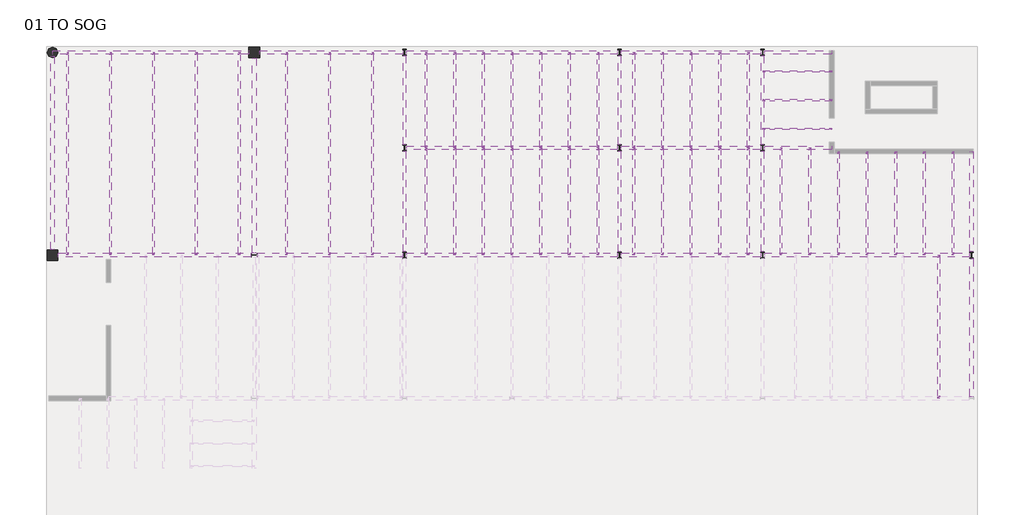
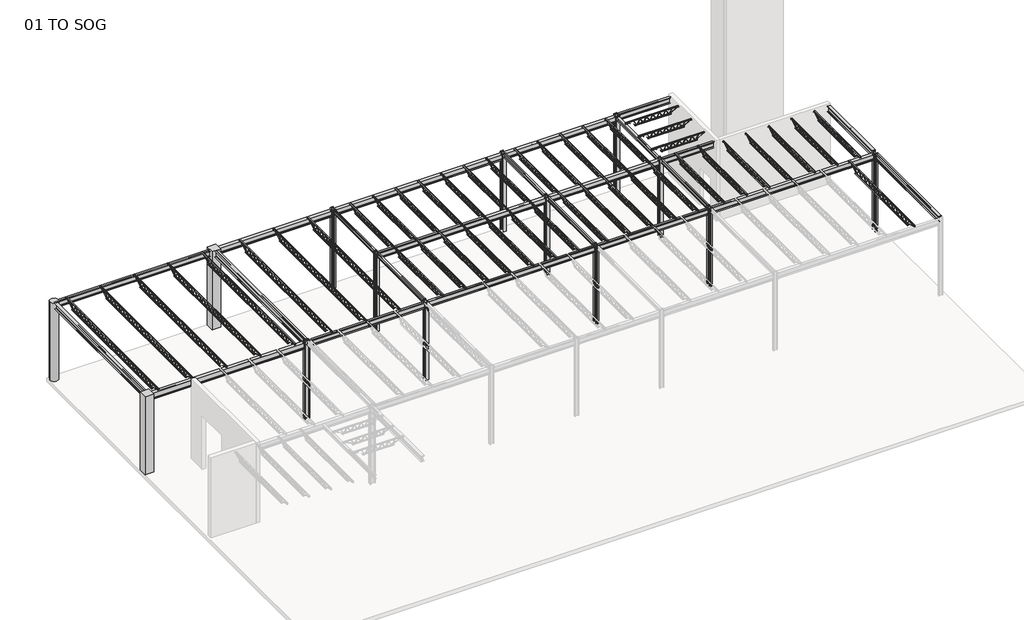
# One storey, part 2 of 2: 66 beams, 14 columns.
"""IFC4 building model written with IfcOpenShell, lengths in millimetres."""

from ifc_helpers import new_model, si_unit, point, frame_2d, origin, origin_with_axes, place, context, project, spatial, polyline, circle_curve, trimmed, segment, composite_curve, outline, extrude, transform, mapped, element, save
from components import k_series_bar_joist_angle_web_12k3_1ccca6b7, k_series_bar_joist_angle_web_12k3_bc085ed2, k_series_bar_joist_angle_web_12k3_13094d3f, k_series_bar_joist_angle_web_12k3_e2e2536a, k_series_bar_joist_angle_web_14k6_9ea650d1, k_series_bar_joist_angle_web_14k6_8be7365d, w_wide_flange_w12x26_9fd3e897, w_wide_flange_w12x26_d2ca2df1, w_wide_flange_w12x26_ed4af81c, w_wide_flange_w12x26_7af0cc8f, w_wide_flange_w12x26_58258d12, w_wide_flange_w12x26_cbf4b631, w_wide_flange_w12x26_6214fc0f, w_wide_flange_w12x26_6bea11c7, w_wide_flange_w12x26_59120017, w_wide_flange_w12x26_bc60cd37, w_wide_flange_w14x30_50aad096, w_wide_flange_w14x30_5dc0e07a, w_wide_flange_w8x10_abd37cec, w_wide_flange_w8x10_7498d693, w_wide_flange_column_w10x30_8af20c5e

model = new_model("IFC4")

# Units and contexts
model_context = context("Model", 3, world=origin())
ifc_project = project(units=[si_unit("LENGTHUNIT", "METRE", prefix="MILLI")], contexts=[model_context])

# Site, building, storey
site = spatial("IfcSite", under=ifc_project)
building = spatial("IfcBuilding", under=site)
storey = spatial("IfcBuildingStorey", under=building, Name="01 TO SOG", Elevation=0.0)

# Beams
placement = place(None, origin())
k_series_bar_joist_angle_web_12k3_shape = k_series_bar_joist_angle_web_12k3_1ccca6b7(model_context)
element("IfcBeam", 1, ObjectType="K-Series Bar Joist-Angle Web : 12K3", at=placement, inside=storey, context=model_context, shape_type="MappedRepresentation", body=[
    mapped(k_series_bar_joist_angle_web_12k3_shape, transform((3946.8726301, 6964.1746638, 4292.6), x_axis=(0.0, -1.0, 0.0), y_axis=(1.0, 0.0, 0.0), z_axis=(0.0, 0.0, 1.0))),
])
element("IfcBeam", 2, ObjectType="K-Series Bar Joist-Angle Web : 12K3", at=placement, inside=storey, context=model_context, shape_type="MappedRepresentation", body=[
    mapped(k_series_bar_joist_angle_web_12k3_shape, transform((2727.6726301, 6964.1746638, 4292.6), x_axis=(0.0, -1.0, 0.0), y_axis=(1.0, 0.0, 0.0), z_axis=(0.0, 0.0, 1.0))),
])
element("IfcBeam", 3, ObjectType="K-Series Bar Joist-Angle Web : 12K3", at=placement, inside=storey, context=model_context, shape_type="MappedRepresentation", body=[
    mapped(k_series_bar_joist_angle_web_12k3_shape, transform((1508.4726301, 6964.1746638, 4292.6), x_axis=(0.0, -1.0, 0.0), y_axis=(1.0, 0.0, 0.0), z_axis=(0.0, 0.0, 1.0))),
])
element("IfcBeam", 4, ObjectType="K-Series Bar Joist-Angle Web : 12K3", at=placement, inside=storey, context=model_context, shape_type="MappedRepresentation", body=[
    mapped(k_series_bar_joist_angle_web_12k3_shape, transform((289.2726301, 6964.1746638, 4292.6), x_axis=(0.0, -1.0, 0.0), y_axis=(1.0, 0.0, 0.0), z_axis=(0.0, 0.0, 1.0))),
])
element("IfcBeam", 5, ObjectType="K-Series Bar Joist-Angle Web : 12K3", at=placement, inside=storey, context=model_context, shape_type="MappedRepresentation", body=[
    mapped(k_series_bar_joist_angle_web_12k3_shape, transform((-929.9273699, 6964.1746638, 4292.6), x_axis=(0.0, -1.0, 0.0), y_axis=(1.0, 0.0, 0.0), z_axis=(0.0, 0.0, 1.0))),
])
element("IfcBeam", 6, ObjectType="K-Series Bar Joist-Angle Web : 12K3", at=placement, inside=storey, context=model_context, shape_type="MappedRepresentation", body=[
    mapped(k_series_bar_joist_angle_web_12k3_shape, transform((-2149.1273699, 6964.1746638, 4292.6), x_axis=(0.0, -1.0, 0.0), y_axis=(1.0, 0.0, 0.0), z_axis=(0.0, 0.0, 1.0))),
])
element("IfcBeam", 7, ObjectType="K-Series Bar Joist-Angle Web : 12K3", at=placement, inside=storey, context=model_context, shape_type="MappedRepresentation", body=[
    mapped(k_series_bar_joist_angle_web_12k3_shape, transform((-3368.3273699, 6964.1746638, 4292.6), x_axis=(0.0, -1.0, 0.0), y_axis=(1.0, 0.0, 0.0), z_axis=(0.0, 0.0, 1.0))),
])
element("IfcBeam", 8, ObjectType="K-Series Bar Joist-Angle Web : 12K3", at=placement, inside=storey, context=model_context, shape_type="MappedRepresentation", body=[
    mapped(k_series_bar_joist_angle_web_12k3_shape, transform((10347.6726301, 6964.1746638, 4292.6), x_axis=(0.0, -1.0, 0.0), y_axis=(1.0, 0.0, 0.0), z_axis=(0.0, 0.0, 1.0))),
])
element("IfcBeam", 9, ObjectType="K-Series Bar Joist-Angle Web : 12K3", at=placement, inside=storey, context=model_context, shape_type="MappedRepresentation", body=[
    mapped(k_series_bar_joist_angle_web_12k3_shape, transform((9128.4726301, 6964.1746638, 4292.6), x_axis=(0.0, -1.0, 0.0), y_axis=(1.0, 0.0, 0.0), z_axis=(0.0, 0.0, 1.0))),
])
element("IfcBeam", 10, ObjectType="K-Series Bar Joist-Angle Web : 12K3", at=placement, inside=storey, context=model_context, shape_type="MappedRepresentation", body=[
    mapped(k_series_bar_joist_angle_web_12k3_shape, transform((7909.2726301, 6964.1746638, 4292.6), x_axis=(0.0, -1.0, 0.0), y_axis=(1.0, 0.0, 0.0), z_axis=(0.0, 0.0, 1.0))),
])
element("IfcBeam", 11, ObjectType="K-Series Bar Joist-Angle Web : 12K3", at=placement, inside=storey, context=model_context, shape_type="MappedRepresentation", body=[
    mapped(k_series_bar_joist_angle_web_12k3_shape, transform((6690.0726301, 6964.1746638, 4292.6), x_axis=(0.0, -1.0, 0.0), y_axis=(1.0, 0.0, 0.0), z_axis=(0.0, 0.0, 1.0))),
])
element("IfcBeam", 12, ObjectType="K-Series Bar Joist-Angle Web : 12K3", at=placement, inside=storey, context=model_context, shape_type="MappedRepresentation", body=[
    mapped(k_series_bar_joist_angle_web_12k3_shape, transform((5470.8726301, 6964.1746638, 4292.6), x_axis=(0.0, -1.0, 0.0), y_axis=(1.0, 0.0, 0.0), z_axis=(0.0, 0.0, 1.0))),
])
k_series_bar_joist_angle_web_12k3_2_shape = k_series_bar_joist_angle_web_12k3_bc085ed2(model_context)
element("IfcBeam", 13, ObjectType="K-Series Bar Joist-Angle Web : 12K3", at=placement, inside=storey, context=model_context, shape_type="MappedRepresentation", body=[
    mapped(k_series_bar_joist_angle_web_12k3_2_shape, transform((3946.8726301, 2646.1746638, 4292.6), x_axis=(0.0, -1.0, 0.0), y_axis=(1.0, 0.0, 0.0), z_axis=(0.0, 0.0, 1.0))),
])
element("IfcBeam", 14, ObjectType="K-Series Bar Joist-Angle Web : 12K3", at=placement, inside=storey, context=model_context, shape_type="MappedRepresentation", body=[
    mapped(k_series_bar_joist_angle_web_12k3_2_shape, transform((2727.6726301, 2646.1746638, 4292.6), x_axis=(0.0, -1.0, 0.0), y_axis=(1.0, 0.0, 0.0), z_axis=(0.0, 0.0, 1.0))),
])
element("IfcBeam", 15, ObjectType="K-Series Bar Joist-Angle Web : 12K3", at=placement, inside=storey, context=model_context, shape_type="MappedRepresentation", body=[
    mapped(k_series_bar_joist_angle_web_12k3_2_shape, transform((1508.4726301, 2646.1746638, 4292.6), x_axis=(0.0, -1.0, 0.0), y_axis=(1.0, 0.0, 0.0), z_axis=(0.0, 0.0, 1.0))),
])
element("IfcBeam", 16, ObjectType="K-Series Bar Joist-Angle Web : 12K3", at=placement, inside=storey, context=model_context, shape_type="MappedRepresentation", body=[
    mapped(k_series_bar_joist_angle_web_12k3_2_shape, transform((289.2726301, 2646.1746638, 4292.6), x_axis=(0.0, -1.0, 0.0), y_axis=(1.0, 0.0, 0.0), z_axis=(0.0, 0.0, 1.0))),
])
element("IfcBeam", 17, ObjectType="K-Series Bar Joist-Angle Web : 12K3", at=placement, inside=storey, context=model_context, shape_type="MappedRepresentation", body=[
    mapped(k_series_bar_joist_angle_web_12k3_2_shape, transform((-929.9273699, 2646.1746638, 4292.6), x_axis=(0.0, -1.0, 0.0), y_axis=(1.0, 0.0, 0.0), z_axis=(0.0, 0.0, 1.0))),
])
element("IfcBeam", 18, ObjectType="K-Series Bar Joist-Angle Web : 12K3", at=placement, inside=storey, context=model_context, shape_type="MappedRepresentation", body=[
    mapped(k_series_bar_joist_angle_web_12k3_2_shape, transform((-2149.1273699, 2646.1746638, 4292.6), x_axis=(0.0, -1.0, 0.0), y_axis=(1.0, 0.0, 0.0), z_axis=(0.0, 0.0, 1.0))),
])
element("IfcBeam", 19, ObjectType="K-Series Bar Joist-Angle Web : 12K3", at=placement, inside=storey, context=model_context, shape_type="MappedRepresentation", body=[
    mapped(k_series_bar_joist_angle_web_12k3_2_shape, transform((-3368.3273699, 2646.1746638, 4292.6), x_axis=(0.0, -1.0, 0.0), y_axis=(1.0, 0.0, 0.0), z_axis=(0.0, 0.0, 1.0))),
])
element("IfcBeam", 20, ObjectType="K-Series Bar Joist-Angle Web : 12K3", at=placement, inside=storey, context=model_context, shape_type="MappedRepresentation", body=[
    mapped(k_series_bar_joist_angle_web_12k3_2_shape, transform((5470.8726301, 2646.1746638, 4292.6), x_axis=(0.0, 1.0, 0.0), y_axis=(-1.0, 0.0, 0.0), z_axis=(0.0, 0.0, 1.0))),
])
element("IfcBeam", 21, ObjectType="K-Series Bar Joist-Angle Web : 12K3", at=placement, inside=storey, context=model_context, shape_type="MappedRepresentation", body=[
    mapped(k_series_bar_joist_angle_web_12k3_2_shape, transform((6690.0726301, 2646.1746638, 4292.6), x_axis=(0.0, 1.0, 0.0), y_axis=(-1.0, 0.0, 0.0), z_axis=(0.0, 0.0, 1.0))),
])
element("IfcBeam", 22, ObjectType="K-Series Bar Joist-Angle Web : 12K3", at=placement, inside=storey, context=model_context, shape_type="MappedRepresentation", body=[
    mapped(k_series_bar_joist_angle_web_12k3_2_shape, transform((7909.2726301, 2646.1746638, 4292.6), x_axis=(0.0, 1.0, 0.0), y_axis=(-1.0, 0.0, 0.0), z_axis=(0.0, 0.0, 1.0))),
])
element("IfcBeam", 23, ObjectType="K-Series Bar Joist-Angle Web : 12K3", at=placement, inside=storey, context=model_context, shape_type="MappedRepresentation", body=[
    mapped(k_series_bar_joist_angle_web_12k3_2_shape, transform((9128.4726301, 2646.1746638, 4292.6), x_axis=(0.0, 1.0, 0.0), y_axis=(-1.0, 0.0, 0.0), z_axis=(0.0, 0.0, 1.0))),
])
element("IfcBeam", 24, ObjectType="K-Series Bar Joist-Angle Web : 12K3", at=placement, inside=storey, context=model_context, shape_type="MappedRepresentation", body=[
    mapped(k_series_bar_joist_angle_web_12k3_2_shape, transform((10347.6726301, 2646.1746638, 4292.6), x_axis=(0.0, 1.0, 0.0), y_axis=(-1.0, 0.0, 0.0), z_axis=(0.0, 0.0, 1.0))),
])
element("IfcBeam", 25, ObjectType="K-Series Bar Joist-Angle Web : 12K3", at=placement, inside=storey, context=model_context, shape_type="MappedRepresentation", body=[
    mapped(k_series_bar_joist_angle_web_12k3_2_shape, transform((11744.6726301, 2646.1746638, 4292.6), x_axis=(0.0, 1.0, 0.0), y_axis=(-1.0, 0.0, 0.0), z_axis=(0.0, 0.0, 1.0))),
])
element("IfcBeam", 26, ObjectType="K-Series Bar Joist-Angle Web : 12K3", at=placement, inside=storey, context=model_context, shape_type="MappedRepresentation", body=[
    mapped(k_series_bar_joist_angle_web_12k3_2_shape, transform((12963.8726301, 2646.1746638, 4292.6), x_axis=(0.0, 1.0, 0.0), y_axis=(-1.0, 0.0, 0.0), z_axis=(0.0, 0.0, 1.0))),
])
k_series_bar_joist_angle_web_12k3_3_shape = k_series_bar_joist_angle_web_12k3_13094d3f(model_context)
element("IfcBeam", 27, ObjectType="K-Series Bar Joist-Angle Web : 12K3", at=placement, inside=storey, context=model_context, shape_type="MappedRepresentation", body=[
    mapped(k_series_bar_joist_angle_web_12k3_3_shape, transform((12430.4726301, 8183.3746638, 4292.6), x_axis=(1.0, 0.0, 0.0), y_axis=(0.0, 1.0, 0.0), z_axis=(0.0, 0.0, 1.0))),
])
element("IfcBeam", 28, ObjectType="K-Series Bar Joist-Angle Web : 12K3", at=placement, inside=storey, context=model_context, shape_type="MappedRepresentation", body=[
    mapped(k_series_bar_joist_angle_web_12k3_3_shape, transform((12430.4726301, 6964.1746638, 4292.6), x_axis=(1.0, 0.0, 0.0), y_axis=(0.0, 1.0, 0.0), z_axis=(0.0, 0.0, 1.0))),
])
element("IfcBeam", 29, ObjectType="K-Series Bar Joist-Angle Web : 12K3", at=placement, inside=storey, context=model_context, shape_type="MappedRepresentation", body=[
    mapped(k_series_bar_joist_angle_web_12k3_3_shape, transform((12430.4726301, 5744.9746638, 4292.6), x_axis=(1.0, 0.0, 0.0), y_axis=(0.0, 1.0, 0.0), z_axis=(0.0, 0.0, 1.0))),
])
k_series_bar_joist_angle_web_12k3_4_shape = k_series_bar_joist_angle_web_12k3_e2e2536a(model_context)
element("IfcBeam", 30, ObjectType="K-Series Bar Joist-Angle Web : 12K3", at=placement, inside=storey, context=model_context, shape_type="MappedRepresentation", body=[
    mapped(k_series_bar_joist_angle_web_12k3_4_shape, transform((14183.0726301, 2569.9746638, 4292.6), x_axis=(0.0, 1.0, 0.0), y_axis=(-1.0, 0.0, 0.0), z_axis=(0.0, 0.0, 1.0))),
])
element("IfcBeam", 31, ObjectType="K-Series Bar Joist-Angle Web : 12K3", at=placement, inside=storey, context=model_context, shape_type="MappedRepresentation", body=[
    mapped(k_series_bar_joist_angle_web_12k3_4_shape, transform((15402.2726301, 2569.9746638, 4292.6), x_axis=(0.0, 1.0, 0.0), y_axis=(-1.0, 0.0, 0.0), z_axis=(0.0, 0.0, 1.0))),
])
element("IfcBeam", 32, ObjectType="K-Series Bar Joist-Angle Web : 12K3", at=placement, inside=storey, context=model_context, shape_type="MappedRepresentation", body=[
    mapped(k_series_bar_joist_angle_web_12k3_4_shape, transform((16621.4726301, 2569.9746638, 4292.6), x_axis=(0.0, 1.0, 0.0), y_axis=(-1.0, 0.0, 0.0), z_axis=(0.0, 0.0, 1.0))),
])
element("IfcBeam", 33, ObjectType="K-Series Bar Joist-Angle Web : 12K3", at=placement, inside=storey, context=model_context, shape_type="MappedRepresentation", body=[
    mapped(k_series_bar_joist_angle_web_12k3_4_shape, transform((17840.6726301, 2569.9746638, 4292.6), x_axis=(0.0, 1.0, 0.0), y_axis=(-1.0, 0.0, 0.0), z_axis=(0.0, 0.0, 1.0))),
])
element("IfcBeam", 34, ObjectType="K-Series Bar Joist-Angle Web : 12K3", at=placement, inside=storey, context=model_context, shape_type="MappedRepresentation", body=[
    mapped(k_series_bar_joist_angle_web_12k3_4_shape, transform((19059.8726301, 2569.9746638, 4292.6), x_axis=(0.0, 1.0, 0.0), y_axis=(-1.0, 0.0, 0.0), z_axis=(0.0, 0.0, 1.0))),
])
k_series_bar_joist_angle_web_14k6_shape = k_series_bar_joist_angle_web_14k6_9ea650d1(model_context)
element("IfcBeam", 35, ObjectType="K-Series Bar Joist-Angle Web : 14K6", at=placement, inside=storey, context=model_context, shape_type="MappedRepresentation", body=[
    mapped(k_series_bar_joist_angle_web_14k6_shape, transform((-18633.7273699, 4678.1746638, 4267.2), x_axis=(0.0, 1.0, 0.0), y_axis=(-1.0, 0.0, 0.0), z_axis=(0.0, 0.0, 1.0))),
])
element("IfcBeam", 36, ObjectType="K-Series Bar Joist-Angle Web : 14K6", at=placement, inside=storey, context=model_context, shape_type="MappedRepresentation", body=[
    mapped(k_series_bar_joist_angle_web_14k6_shape, transform((-16804.9273699, 4678.1746638, 4267.2), x_axis=(0.0, 1.0, 0.0), y_axis=(-1.0, 0.0, 0.0), z_axis=(0.0, 0.0, 1.0))),
])
element("IfcBeam", 37, ObjectType="K-Series Bar Joist-Angle Web : 14K6", at=placement, inside=storey, context=model_context, shape_type="MappedRepresentation", body=[
    mapped(k_series_bar_joist_angle_web_14k6_shape, transform((-14976.1273699, 4678.1746638, 4267.2), x_axis=(0.0, 1.0, 0.0), y_axis=(-1.0, 0.0, 0.0), z_axis=(0.0, 0.0, 1.0))),
])
element("IfcBeam", 38, ObjectType="K-Series Bar Joist-Angle Web : 14K6", at=placement, inside=storey, context=model_context, shape_type="MappedRepresentation", body=[
    mapped(k_series_bar_joist_angle_web_14k6_shape, transform((-13147.3273699, 4678.1746638, 4267.2), x_axis=(0.0, 1.0, 0.0), y_axis=(-1.0, 0.0, 0.0), z_axis=(0.0, 0.0, 1.0))),
])
element("IfcBeam", 39, ObjectType="K-Series Bar Joist-Angle Web : 14K6", at=placement, inside=storey, context=model_context, shape_type="MappedRepresentation", body=[
    mapped(k_series_bar_joist_angle_web_14k6_shape, transform((-11318.5273699, 4678.1746638, 4267.2), x_axis=(0.0, 1.0, 0.0), y_axis=(-1.0, 0.0, 0.0), z_axis=(0.0, 0.0, 1.0))),
])
element("IfcBeam", 40, ObjectType="K-Series Bar Joist-Angle Web : 14K6", at=placement, inside=storey, context=model_context, shape_type="MappedRepresentation", body=[
    mapped(k_series_bar_joist_angle_web_14k6_shape, transform((-9311.9273699, 4678.1746638, 4267.2), x_axis=(0.0, 1.0, 0.0), y_axis=(-1.0, 0.0, 0.0), z_axis=(0.0, 0.0, 1.0))),
])
element("IfcBeam", 41, ObjectType="K-Series Bar Joist-Angle Web : 14K6", at=placement, inside=storey, context=model_context, shape_type="MappedRepresentation", body=[
    mapped(k_series_bar_joist_angle_web_14k6_shape, transform((-7483.1273699, 4678.1746638, 4267.2), x_axis=(0.0, 1.0, 0.0), y_axis=(-1.0, 0.0, 0.0), z_axis=(0.0, 0.0, 1.0))),
])
element("IfcBeam", 42, ObjectType="K-Series Bar Joist-Angle Web : 14K6", at=placement, inside=storey, context=model_context, shape_type="MappedRepresentation", body=[
    mapped(k_series_bar_joist_angle_web_14k6_shape, transform((-5654.3273699, 4678.1746638, 4267.2), x_axis=(0.0, 1.0, 0.0), y_axis=(-1.0, 0.0, 0.0), z_axis=(0.0, 0.0, 1.0))),
])
k_series_bar_joist_angle_web_14k6_2_shape = k_series_bar_joist_angle_web_14k6_8be7365d(model_context)
element("IfcBeam", 43, ObjectType="K-Series Bar Joist-Angle Web : 14K6", at=placement, inside=storey, context=model_context, shape_type="MappedRepresentation", body=[
    mapped(k_series_bar_joist_angle_web_14k6_2_shape, transform((18450.2726301, -2687.8253362, 4267.2), x_axis=(0.0, -1.0, 0.0), y_axis=(1.0, 0.0, 0.0), z_axis=(0.0, 0.0, 1.0))),
])
w_wide_flange_w12x26_shape = w_wide_flange_w12x26_9fd3e897(model_context)
element("IfcBeam", 44, ObjectType="W-Wide Flange : W12x26", at=placement, inside=storey, context=model_context, shape_type="MappedRepresentation", body=[
    mapped(w_wide_flange_w12x26_shape, transform((7909.2726301, 8996.1746638, 4226.56), x_axis=(1.0, 0.0, 0.0), y_axis=(0.0, 1.0, 0.0), z_axis=(0.0, 0.0, 1.0))),
])
element("IfcBeam", 45, ObjectType="W-Wide Flange : W12x26", at=placement, inside=storey, context=model_context, shape_type="MappedRepresentation", body=[
    mapped(w_wide_flange_w12x26_shape, transform((7909.2726301, 4932.1746638, 4226.56), x_axis=(1.0, 0.0, 0.0), y_axis=(0.0, 1.0, 0.0), z_axis=(0.0, 0.0, 1.0))),
])
element("IfcBeam", 46, ObjectType="W-Wide Flange : W12x26", at=placement, inside=storey, context=model_context, shape_type="MappedRepresentation", body=[
    mapped(w_wide_flange_w12x26_shape, transform((7909.2726301, 360.1746638, 4226.56), x_axis=(-1.0, 0.0, 0.0), y_axis=(0.0, -1.0, 0.0), z_axis=(0.0, 0.0, 1.0))),
])
w_wide_flange_w12x26_2_shape = w_wide_flange_w12x26_d2ca2df1(model_context)
element("IfcBeam", 47, ObjectType="W-Wide Flange : W12x26", at=placement, inside=storey, context=model_context, shape_type="MappedRepresentation", body=[
    mapped(w_wide_flange_w12x26_2_shape, transform((15402.2726301, 360.1746638, 4226.56), x_axis=(1.0, 0.0, 0.0), y_axis=(0.0, 1.0, 0.0), z_axis=(0.0, 0.0, 1.0))),
])
w_wide_flange_w12x26_3_shape = w_wide_flange_w12x26_ed4af81c(model_context)
element("IfcBeam", 48, ObjectType="W-Wide Flange : W12x26", at=placement, inside=storey, context=model_context, shape_type="MappedRepresentation", body=[
    mapped(w_wide_flange_w12x26_3_shape, transform((19847.2726301, -2687.8253362, 4290.06), x_axis=(0.0, 1.0, 0.0), y_axis=(-1.0, 0.0, 0.0), z_axis=(0.0, 0.0, 1.0))),
])
w_wide_flange_w12x26_4_shape = w_wide_flange_w12x26_7af0cc8f(model_context)
element("IfcBeam", 49, ObjectType="W-Wide Flange : W12x26", at=placement, inside=storey, context=model_context, shape_type="MappedRepresentation", body=[
    mapped(w_wide_flange_w12x26_4_shape, transform((-19268.7273699, 4678.1746638, 4290.06), x_axis=(0.0, 1.0, 0.0), y_axis=(-1.0, 0.0, 0.0), z_axis=(0.0, 0.0, 1.0))),
])
w_wide_flange_w12x26_5_shape = w_wide_flange_w12x26_58258d12(model_context)
element("IfcBeam", 50, ObjectType="W-Wide Flange : W12x26", at=placement, inside=storey, context=model_context, shape_type="MappedRepresentation", body=[
    mapped(w_wide_flange_w12x26_5_shape, transform((-14976.1273699, 8996.1746638, 4226.56), x_axis=(1.0, 0.0, 0.0), y_axis=(0.0, 1.0, 0.0), z_axis=(0.0, 0.0, 1.0))),
])
w_wide_flange_w12x26_6_shape = w_wide_flange_w12x26_cbf4b631(model_context)
element("IfcBeam", 51, ObjectType="W-Wide Flange : W12x26", at=placement, inside=storey, context=model_context, shape_type="MappedRepresentation", body=[
    mapped(w_wide_flange_w12x26_6_shape, transform((12430.4726301, 8996.1746638, 4290.06), x_axis=(1.0, 0.0, 0.0), y_axis=(0.0, 1.0, 0.0), z_axis=(0.0, 0.0, 1.0))),
])
element("IfcBeam", 52, ObjectType="W-Wide Flange : W12x26", at=placement, inside=storey, context=model_context, shape_type="MappedRepresentation", body=[
    mapped(w_wide_flange_w12x26_6_shape, transform((12430.4726301, 4932.1746638, 4226.56), x_axis=(1.0, 0.0, 0.0), y_axis=(0.0, 1.0, 0.0), z_axis=(0.0, 0.0, 1.0))),
])
w_wide_flange_w12x26_7_shape = w_wide_flange_w12x26_6214fc0f(model_context)
element("IfcBeam", 53, ObjectType="W-Wide Flange : W12x26", at=placement, inside=storey, context=model_context, shape_type="MappedRepresentation", body=[
    mapped(w_wide_flange_w12x26_7_shape, transform((19847.2726301, 2569.9746638, 4290.06), x_axis=(0.0, 1.0, 0.0), y_axis=(-1.0, 0.0, 0.0), z_axis=(0.0, 0.0, 1.0))),
])
w_wide_flange_w12x26_8_shape = w_wide_flange_w12x26_6bea11c7(model_context)
element("IfcBeam", 54, ObjectType="W-Wide Flange : W12x26", at=placement, inside=storey, context=model_context, shape_type="MappedRepresentation", body=[
    mapped(w_wide_flange_w12x26_8_shape, transform((-7483.1273699, 8996.1746638, 4226.56), x_axis=(1.0, 0.0, 0.0), y_axis=(0.0, 1.0, 0.0), z_axis=(0.0, 0.0, 1.0))),
])
w_wide_flange_w12x26_9_shape = w_wide_flange_w12x26_59120017(model_context)
element("IfcBeam", 55, ObjectType="W-Wide Flange : W12x26", at=placement, inside=storey, context=model_context, shape_type="MappedRepresentation", body=[
    mapped(w_wide_flange_w12x26_9_shape, transform((289.2726301, 8996.1746638, 4226.56), x_axis=(1.0, 0.0, 0.0), y_axis=(0.0, 1.0, 0.0), z_axis=(0.0, 0.0, 1.0))),
])
element("IfcBeam", 56, ObjectType="W-Wide Flange : W12x26", at=placement, inside=storey, context=model_context, shape_type="MappedRepresentation", body=[
    mapped(w_wide_flange_w12x26_9_shape, transform((289.2726301, 4932.1746638, 4226.56), x_axis=(1.0, 0.0, 0.0), y_axis=(0.0, 1.0, 0.0), z_axis=(0.0, 0.0, 1.0))),
])
element("IfcBeam", 57, ObjectType="W-Wide Flange : W12x26", at=placement, inside=storey, context=model_context, shape_type="MappedRepresentation", body=[
    mapped(w_wide_flange_w12x26_9_shape, transform((289.2726301, 360.1746638, 4226.56), x_axis=(-1.0, 0.0, 0.0), y_axis=(0.0, -1.0, 0.0), z_axis=(0.0, 0.0, 1.0))),
])
w_wide_flange_w12x26_10_shape = w_wide_flange_w12x26_bc60cd37(model_context)
element("IfcBeam", 58, ObjectType="W-Wide Flange : W12x26", at=placement, inside=storey, context=model_context, shape_type="MappedRepresentation", body=[
    mapped(w_wide_flange_w12x26_10_shape, transform((-7483.1273699, 360.1746638, 4226.56), x_axis=(-1.0, 0.0, 0.0), y_axis=(0.0, -1.0, 0.0), z_axis=(0.0, 0.0, 1.0))),
])
w_wide_flange_w14x30_shape = w_wide_flange_w14x30_50aad096(model_context)
element("IfcBeam", 59, ObjectType="W-Wide Flange : W14x30", at=placement, inside=storey, context=model_context, shape_type="MappedRepresentation", body=[
    mapped(w_wide_flange_w14x30_shape, transform((-10683.5273699, 4678.1746638, 4269.74), x_axis=(0.0, 1.0, 0.0), y_axis=(-1.0, 0.0, 0.0), z_axis=(0.0, 0.0, 1.0))),
])
w_wide_flange_w14x30_2_shape = w_wide_flange_w14x30_5dc0e07a(model_context)
element("IfcBeam", 60, ObjectType="W-Wide Flange : W14x30", at=placement, inside=storey, context=model_context, shape_type="MappedRepresentation", body=[
    mapped(w_wide_flange_w14x30_2_shape, transform((-14976.1273699, 360.1746638, 4206.24), x_axis=(-1.0, 0.0, 0.0), y_axis=(0.0, -1.0, 0.0), z_axis=(0.0, 0.0, 1.0))),
])
w_wide_flange_w8x10_shape = w_wide_flange_w8x10_abd37cec(model_context)
element("IfcBeam", 61, ObjectType="W-Wide Flange : W8x10", at=placement, inside=storey, context=model_context, shape_type="MappedRepresentation", body=[
    mapped(w_wide_flange_w8x10_shape, transform((-4282.7273699, 6964.1746638, 4344.797), x_axis=(0.0, -1.0, 0.0), y_axis=(1.0, 0.0, 0.0), z_axis=(0.0, 0.0, 1.0))),
])
element("IfcBeam", 62, ObjectType="W-Wide Flange : W8x10", at=placement, inside=storey, context=model_context, shape_type="MappedRepresentation", body=[
    mapped(w_wide_flange_w8x10_shape, transform((4861.2726301, 6964.1746638, 4344.797), x_axis=(0.0, -1.0, 0.0), y_axis=(1.0, 0.0, 0.0), z_axis=(0.0, 0.0, 1.0))),
])
element("IfcBeam", 63, ObjectType="W-Wide Flange : W8x10", at=placement, inside=storey, context=model_context, shape_type="MappedRepresentation", body=[
    mapped(w_wide_flange_w8x10_shape, transform((10957.2726301, 6964.1746638, 4281.297), x_axis=(0.0, -1.0, 0.0), y_axis=(1.0, 0.0, 0.0), z_axis=(0.0, 0.0, 1.0))),
])
w_wide_flange_w8x10_2_shape = w_wide_flange_w8x10_7498d693(model_context)
element("IfcBeam", 64, ObjectType="W-Wide Flange : W8x10", at=placement, inside=storey, context=model_context, shape_type="MappedRepresentation", body=[
    mapped(w_wide_flange_w8x10_2_shape, transform((10957.2726301, 2646.1746638, 4344.797), x_axis=(0.0, 1.0, 0.0), y_axis=(-1.0, 0.0, 0.0), z_axis=(0.0, 0.0, 1.0))),
])
element("IfcBeam", 65, ObjectType="W-Wide Flange : W8x10", at=placement, inside=storey, context=model_context, shape_type="MappedRepresentation", body=[
    mapped(w_wide_flange_w8x10_2_shape, transform((-4282.7273699, 2646.1746638, 4344.797), x_axis=(0.0, 1.0, 0.0), y_axis=(-1.0, 0.0, 0.0), z_axis=(0.0, 0.0, 1.0))),
])
element("IfcBeam", 66, ObjectType="W-Wide Flange : W8x10", at=placement, inside=storey, context=model_context, shape_type="MappedRepresentation", body=[
    mapped(w_wide_flange_w8x10_2_shape, transform((4861.2726301, 2646.1746638, 4344.797), x_axis=(0.0, -1.0, 0.0), y_axis=(1.0, 0.0, 0.0), z_axis=(0.0, 0.0, 1.0))),
])

# Columns
element("IfcColumn", 67, ObjectType="Concrete-Rectangular-Column : CIP Column_C2_18\" x 18\"", at=placement, inside=storey, context=model_context, shape_type="SweptSolid", body=[
    extrude(outline(polyline([(-10912.1273699, 8767.5746638), (-10912.1273699, 9224.7746638), (-10454.9273699, 9224.7746638), (-10454.9273699, 8767.5746638), (-10912.1273699, 8767.5746638)])), origin_with_axes(), (0.0, 0.0, 1.0), 4445.0),
])
element("IfcColumn", 68, ObjectType="Concrete-Rectangular-Column : CIP Column_C2_18\" x 18\"", at=placement, inside=storey, context=model_context, shape_type="SweptSolid", body=[
    extrude(outline(polyline([(-19040.1273699, 588.7746638), (-19040.1273699, 131.5746638), (-19497.3273699, 131.5746638), (-19497.3273699, 588.7746638), (-19040.1273699, 588.7746638)])), origin_with_axes(), (0.0, 0.0, 1.0), 4445.0),
])
element("IfcColumn", 69, ObjectType="Concrete-Round-Column : B1010240_CIP Column_C1_18\" round", at=placement, inside=storey, context=model_context, shape_type="SweptSolid", body=[
    extrude(outline(composite_curve([segment(trimmed(circle_curve(frame_2d((-19268.7273699, 8996.1746638)), 228.6), [point((-19497.3273699, 8996.1746638))], [point((-19040.1273699, 8996.1746638))], False, "CARTESIAN"), True, "CONTINUOUS"), segment(trimmed(circle_curve(frame_2d((-19268.7273699, 8996.1746638)), 228.6), [point((-19040.1273699, 8996.1746638))], [point((-19497.3273699, 8996.1746638))], False, "CARTESIAN"), True, "CONTINUOUS")], self_intersect=False)), origin_with_axes(), (0.0, 0.0, 1.0), 4445.0),
])
w_wide_flange_column_w10x30_shape = w_wide_flange_column_w10x30_8af20c5e(model_context)
element("IfcColumn", 70, ObjectType="W-Wide Flange-Column : W10X30", at=placement, inside=storey, context=model_context, shape_type="MappedRepresentation", body=[
    mapped(w_wide_flange_column_w10x30_shape, transform((-10683.5273699, 360.1746638, 0.0), x_axis=(0.0, 1.0, 0.0), y_axis=(-1.0, 0.0, 0.0), z_axis=(0.0, 0.0, 1.0))),
])
element("IfcColumn", 71, ObjectType="W-Wide Flange-Column : W10X30", at=placement, inside=storey, context=model_context, shape_type="MappedRepresentation", body=[
    mapped(w_wide_flange_column_w10x30_shape, transform((-4282.7273699, 8996.1746638, 0.0), x_axis=(-1.0, 0.0, 0.0), y_axis=(0.0, -1.0, 0.0), z_axis=(0.0, 0.0, 1.0))),
])
element("IfcColumn", 72, ObjectType="W-Wide Flange-Column : W10X30", at=placement, inside=storey, context=model_context, shape_type="MappedRepresentation", body=[
    mapped(w_wide_flange_column_w10x30_shape, transform((4861.2726301, 8996.1746638, 0.0), x_axis=(-1.0, 0.0, 0.0), y_axis=(0.0, -1.0, 0.0), z_axis=(0.0, 0.0, 1.0))),
])
element("IfcColumn", 73, ObjectType="W-Wide Flange-Column : W10X30", at=placement, inside=storey, context=model_context, shape_type="MappedRepresentation", body=[
    mapped(w_wide_flange_column_w10x30_shape, transform((10957.2726301, 8996.1746638, 0.0), x_axis=(-1.0, 0.0, 0.0), y_axis=(0.0, -1.0, 0.0), z_axis=(0.0, 0.0, 1.0))),
])
element("IfcColumn", 74, ObjectType="W-Wide Flange-Column : W10X30", at=placement, inside=storey, context=model_context, shape_type="MappedRepresentation", body=[
    mapped(w_wide_flange_column_w10x30_shape, transform((-4282.7273699, 360.1746638, 0.0), x_axis=(1.0, 0.0, 0.0), y_axis=(0.0, 1.0, 0.0), z_axis=(0.0, 0.0, 1.0))),
])
element("IfcColumn", 75, ObjectType="W-Wide Flange-Column : W10X30", at=placement, inside=storey, context=model_context, shape_type="MappedRepresentation", body=[
    mapped(w_wide_flange_column_w10x30_shape, transform((4861.2726301, 360.1746638, 0.0), x_axis=(1.0, 0.0, 0.0), y_axis=(0.0, 1.0, 0.0), z_axis=(0.0, 0.0, 1.0))),
])
element("IfcColumn", 76, ObjectType="W-Wide Flange-Column : W10X30", at=placement, inside=storey, context=model_context, shape_type="MappedRepresentation", body=[
    mapped(w_wide_flange_column_w10x30_shape, transform((10957.2726301, 360.1746638, 0.0), x_axis=(1.0, 0.0, 0.0), y_axis=(0.0, 1.0, 0.0), z_axis=(0.0, 0.0, 1.0))),
])
element("IfcColumn", 77, ObjectType="W-Wide Flange-Column : W10X30", at=placement, inside=storey, context=model_context, shape_type="MappedRepresentation", body=[
    mapped(w_wide_flange_column_w10x30_shape, transform((19847.2726301, 360.1746638, 0.0), x_axis=(1.0, 0.0, 0.0), y_axis=(0.0, 1.0, 0.0), z_axis=(0.0, 0.0, 1.0))),
])
element("IfcColumn", 78, ObjectType="W-Wide Flange-Column : W10X30", at=placement, inside=storey, context=model_context, shape_type="MappedRepresentation", body=[
    mapped(w_wide_flange_column_w10x30_shape, transform((-4282.7273699, 4932.1746638, 0.0), x_axis=(1.0, 0.0, 0.0), y_axis=(0.0, 1.0, 0.0), z_axis=(0.0, 0.0, 1.0))),
])
element("IfcColumn", 79, ObjectType="W-Wide Flange-Column : W10X30", at=placement, inside=storey, context=model_context, shape_type="MappedRepresentation", body=[
    mapped(w_wide_flange_column_w10x30_shape, transform((4861.2726301, 4932.1746638, 0.0), x_axis=(1.0, 0.0, 0.0), y_axis=(0.0, 1.0, 0.0), z_axis=(0.0, 0.0, 1.0))),
])
element("IfcColumn", 80, ObjectType="W-Wide Flange-Column : W10X30", at=placement, inside=storey, context=model_context, shape_type="MappedRepresentation", body=[
    mapped(w_wide_flange_column_w10x30_shape, transform((10957.2726301, 4932.1746638, 0.0), x_axis=(1.0, 0.0, 0.0), y_axis=(0.0, 1.0, 0.0), z_axis=(0.0, 0.0, 1.0))),
])

save(model, "model.ifc")
